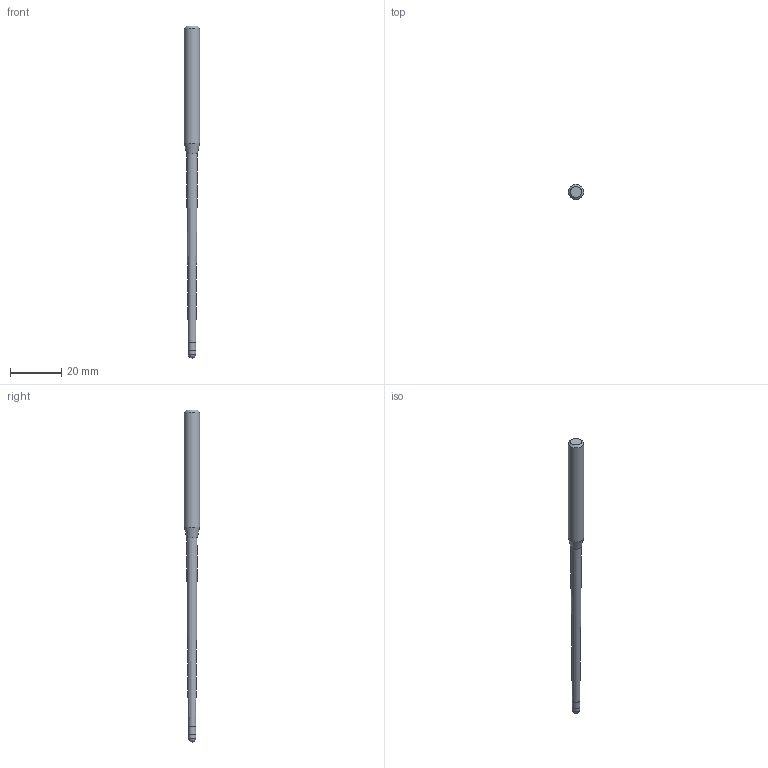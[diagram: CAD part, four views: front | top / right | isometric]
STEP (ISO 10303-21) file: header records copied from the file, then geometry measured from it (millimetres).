
FILE_DESCRIPTION((''),'2;1');
FILE_NAME('C:\Users\nsx150\AppData\Local\Temp\Mastercam 2021\SNAKH10GOD\TEMP.step','2021-10-21T13:33:23',(''),(''),'STEP Write','Mastercam 2021 ... CNC Software, Inc.','');
FILE_SCHEMA(('AUTOMOTIVE_DESIGN'));
Length unit declared in the file: millimetre
Products named in the file (1): None
Bounding box: 6 x 6 x 130 mm (x, y, z)
Volume: 2193.7 mm3; surface area: 1867.2 mm2
Topology: 2 solids, 2 shells, 10 faces, 16 edges, 9 vertices
Faces by surface type: plane 3, cylinder 3, cone 3, sphere 1
Full cylindrical faces by diameter (mm): 2.98 x1, 3 x1, 6 x1
Entity records: 232 total; most frequent: DIRECTION 40, CARTESIAN_POINT 28, AXIS2_PLACEMENT_3D 20, ORIENTED_EDGE 16, EDGE_LOOP 16, STYLED_ITEM 13, ADVANCED_FACE 10, FACE_BOUND 9
